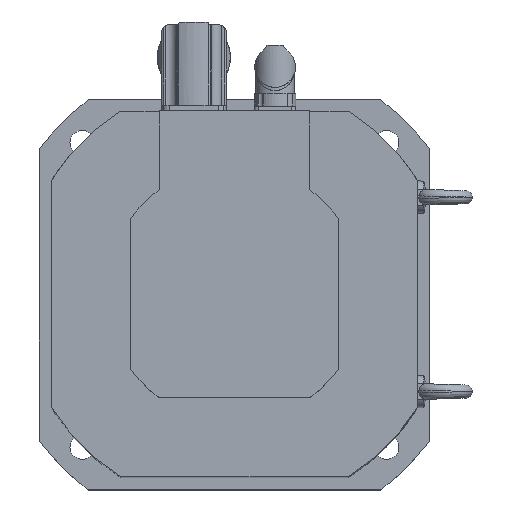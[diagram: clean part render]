
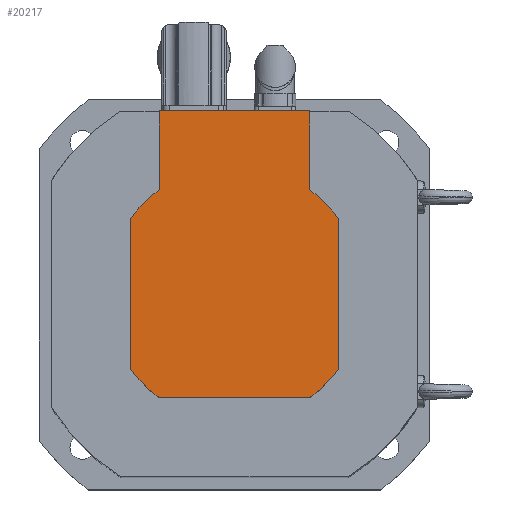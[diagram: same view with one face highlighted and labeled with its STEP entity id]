
A CAD part, top view. The second image highlights one B-rep face of the part: STEP entity #20217.
In plain terms, the highlighted planar face has unit normal (0, 0, 1).
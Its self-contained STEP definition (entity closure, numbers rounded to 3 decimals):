
#19905=CARTESIAN_POINT('',(64.,46.314,54.));
#19906=VERTEX_POINT('',#19905);
#19913=CARTESIAN_POINT('',(64.,-46.314,54.));
#19914=VERTEX_POINT('',#19913);
#19915=CARTESIAN_POINT('',(64.,-46.314,54.));
#19916=DIRECTION('',(0.0,1.0,0.0));
#19917=VECTOR('',#19916,92.628);
#19918=LINE('',#19915,#19917);
#19919=EDGE_CURVE('',#19914,#19906,#19918,.T.);
#19944=CARTESIAN_POINT('',(-64.,-46.314,54.));
#19945=VERTEX_POINT('',#19944);
#19952=CARTESIAN_POINT('',(-64.,46.314,54.));
#19953=VERTEX_POINT('',#19952);
#19954=CARTESIAN_POINT('',(-64.,46.314,54.));
#19955=DIRECTION('',(0.0,-1.0,0.0));
#19956=VECTOR('',#19955,92.628);
#19957=LINE('',#19954,#19956);
#19958=EDGE_CURVE('',#19953,#19945,#19957,.T.);
#19975=CARTESIAN_POINT('',(46.314,-64.,54.));
#19976=VERTEX_POINT('',#19975);
#19983=CARTESIAN_POINT('',(-46.314,-64.,54.));
#19984=VERTEX_POINT('',#19983);
#19985=CARTESIAN_POINT('',(-46.314,-64.,54.));
#19986=DIRECTION('',(1.0,0.0,0.0));
#19987=VECTOR('',#19986,92.628);
#19988=LINE('',#19985,#19987);
#19989=EDGE_CURVE('',#19984,#19976,#19988,.T.);
#20007=CARTESIAN_POINT('',(0.0,0.0,54.0));
#20008=DIRECTION('',(0.0,0.0,-1.0));
#20009=DIRECTION('',(-1.0,0.0,0.0));
#20010=AXIS2_PLACEMENT_3D('',#20007,#20008,#20009);
#20011=CIRCLE('',#20010,79.0);
#20012=EDGE_CURVE('',#19914,#19976,#20011,.T.);
#20026=CARTESIAN_POINT('',(46.314,64.0,54.));
#20027=VERTEX_POINT('',#20026);
#20034=CARTESIAN_POINT('',(0.0,0.0,54.0));
#20035=DIRECTION('',(0.0,0.0,-1.0));
#20036=DIRECTION('',(-1.0,0.0,0.0));
#20037=AXIS2_PLACEMENT_3D('',#20034,#20035,#20036);
#20038=CIRCLE('',#20037,79.0);
#20039=EDGE_CURVE('',#20027,#19906,#20038,.T.);
#20050=CARTESIAN_POINT('',(-46.314,64.0,54.));
#20051=VERTEX_POINT('',#20050);
#20052=CARTESIAN_POINT('',(0.0,0.0,54.0));
#20053=DIRECTION('',(0.0,0.0,-1.0));
#20054=DIRECTION('',(-1.0,0.0,0.0));
#20055=AXIS2_PLACEMENT_3D('',#20052,#20053,#20054);
#20056=CIRCLE('',#20055,79.0);
#20057=EDGE_CURVE('',#19953,#20051,#20056,.T.);
#20077=CARTESIAN_POINT('',(0.0,0.0,54.0));
#20078=DIRECTION('',(0.0,0.0,-1.0));
#20079=DIRECTION('',(-1.0,0.0,0.0));
#20080=AXIS2_PLACEMENT_3D('',#20077,#20078,#20079);
#20081=CIRCLE('',#20080,79.0);
#20082=EDGE_CURVE('',#19984,#19945,#20081,.T.);
#20094=CARTESIAN_POINT('',(-46.314,112.5,54.));
#20095=VERTEX_POINT('',#20094);
#20096=CARTESIAN_POINT('',(-46.314,64.0,54.));
#20097=DIRECTION('',(0.0,1.0,0.0));
#20098=VECTOR('',#20097,48.5);
#20099=LINE('',#20096,#20098);
#20100=EDGE_CURVE('',#20051,#20095,#20099,.T.);
#20116=CARTESIAN_POINT('',(46.314,112.5,54.));
#20117=VERTEX_POINT('',#20116);
#20124=CARTESIAN_POINT('',(46.314,64.0,54.));
#20125=DIRECTION('',(0.0,1.0,0.0));
#20126=VECTOR('',#20125,48.5);
#20127=LINE('',#20124,#20126);
#20128=EDGE_CURVE('',#20027,#20117,#20127,.T.);
#20148=CARTESIAN_POINT('',(-46.314,112.5,54.));
#20149=DIRECTION('',(1.0,0.0,0.0));
#20150=VECTOR('',#20149,92.628);
#20151=LINE('',#20148,#20150);
#20152=EDGE_CURVE('',#20095,#20117,#20151,.T.);
#20200=CARTESIAN_POINT('',(64.,-64.,54.0));
#20201=DIRECTION('',(0.0,0.0,-1.0));
#20202=DIRECTION('',(-1.0,0.0,0.0));
#20203=AXIS2_PLACEMENT_3D('',#20200,#20201,#20202);
#20204=PLANE('',#20203);
#20205=ORIENTED_EDGE('',*,*,#19919,.T.);
#20206=ORIENTED_EDGE('',*,*,#20039,.F.);
#20207=ORIENTED_EDGE('',*,*,#20128,.T.);
#20208=ORIENTED_EDGE('',*,*,#20152,.F.);
#20209=ORIENTED_EDGE('',*,*,#20100,.F.);
#20210=ORIENTED_EDGE('',*,*,#20057,.F.);
#20211=ORIENTED_EDGE('',*,*,#19958,.T.);
#20212=ORIENTED_EDGE('',*,*,#20082,.F.);
#20213=ORIENTED_EDGE('',*,*,#19989,.T.);
#20214=ORIENTED_EDGE('',*,*,#20012,.F.);
#20215=EDGE_LOOP('',(#20205,#20206,#20207,#20208,#20209,#20210,#20211,#20212,#20213,#20214));
#20216=FACE_OUTER_BOUND('',#20215,.T.);
#20217=ADVANCED_FACE('',(#20216),#20204,.F.);
